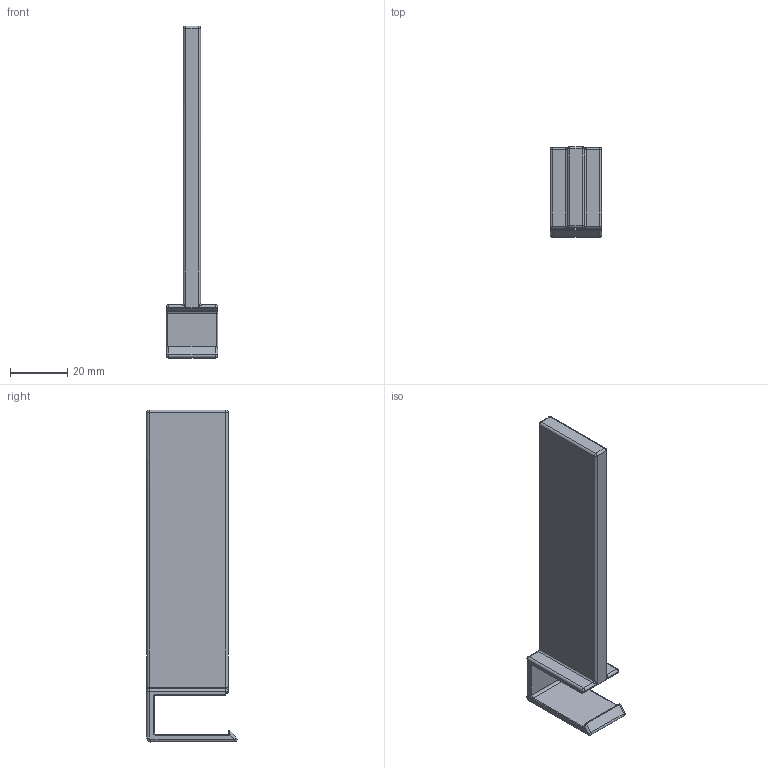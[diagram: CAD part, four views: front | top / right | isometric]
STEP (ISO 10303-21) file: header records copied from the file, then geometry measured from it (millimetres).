
FILE_DESCRIPTION (( 'STEP AP203' ), '1' );
FILE_NAME ('Längsteiler für Querreling-Rechteck_Scala.STEP', '2025-03-14T10:24:32', ( '' ), ( '' ), 'SwSTEP 2.0', 'SolidWorks 2023', '' );
FILE_SCHEMA (( 'CONFIG_CONTROL_DESIGN' ));
Length unit declared in the file: millimetre
Products named in the file (1): Längsteiler für Querreling-Rechteck_Scala
Bounding box: 18 x 31.6 x 116.45 mm (x, y, z)
Volume: 19828.8 mm3; surface area: 9597.7 mm2
Topology: 1 solids, 1 shells, 292 faces, 778 edges, 482 vertices
Faces by surface type: cylinder 166, plane 91, bspline 14, sphere 12, torus 9
Entity records: 9498 total; most frequent: CARTESIAN_POINT 2131, DIRECTION 1613, ORIENTED_EDGE 1516, EDGE_CURVE 758, AXIS2_PLACEMENT_3D 608, VERTEX_POINT 480, VECTOR 397, LINE 397
